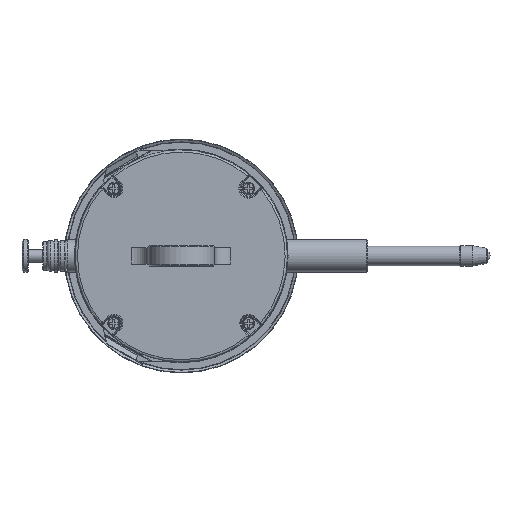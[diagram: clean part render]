
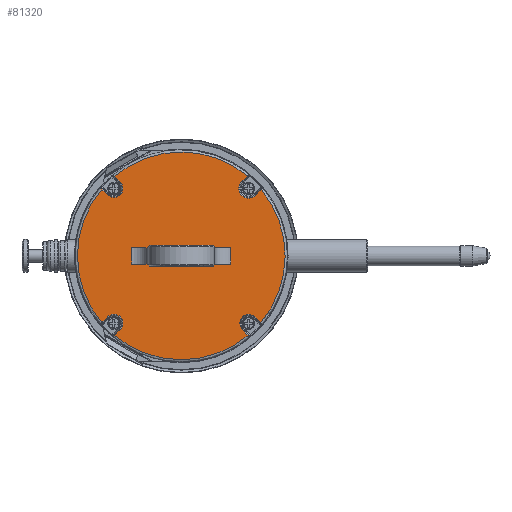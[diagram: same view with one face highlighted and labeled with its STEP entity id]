
A CAD part, top view. The second image highlights one B-rep face of the part: STEP entity #81320.
In plain terms, the highlighted planar face has unit normal (0, 0, 1).
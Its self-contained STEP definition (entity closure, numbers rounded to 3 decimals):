
#39500=CARTESIAN_POINT('',(2.5,0.,2.1));
#39510=DIRECTION('',(0.,-1.,0.));
#39520=VECTOR('',#39510,1.);
#39530=LINE('',#39500,#39520);
#39540=CARTESIAN_POINT('',(2.5,7.8,2.1));
#39550=VERTEX_POINT('',#39540);
#39560=CARTESIAN_POINT('',(2.5,-7.8,2.1));
#39570=VERTEX_POINT('',#39560);
#39580=EDGE_CURVE('',#39550,#39570,#39530,.T.);
#51330=CARTESIAN_POINT('',(-19.359,16.288,2.1));
#51340=VERTEX_POINT('',#51330);
#52190=CARTESIAN_POINT('',(2.,-8.1,2.1));
#52200=VERTEX_POINT('',#52190);
#52230=CARTESIAN_POINT('',(2.,0.,2.1));
#52240=DIRECTION('',(0.,-1.,0.));
#52250=VECTOR('',#52240,1.);
#52260=LINE('',#52230,#52250);
#52270=CARTESIAN_POINT('',(2.,-12.1,2.1));
#52280=VERTEX_POINT('',#52270);
#52290=EDGE_CURVE('',#52200,#52280,#52260,.T.);
#53010=CARTESIAN_POINT('',(14.728,-18.082,2.1));
#53020=VERTEX_POINT('',#53010);
#53210=CARTESIAN_POINT('',(16.134,-19.488,2.1));
#53220=VERTEX_POINT('',#53210);
#53250=CARTESIAN_POINT('',(0.,-3.354,2.1));
#53260=DIRECTION('',(-0.707,0.707,0.));
#53270=VECTOR('',#53260,1.);
#53280=LINE('',#53250,#53270);
#53290=EDGE_CURVE('',#53220,#53020,#53280,.T.);
#54500=CARTESIAN_POINT('',(-16.288,19.359,2.1));
#54510=VERTEX_POINT('',#54500);
#63180=CARTESIAN_POINT('',(14.869,17.94,2.1));
#63190=VERTEX_POINT('',#63180);
#63280=CARTESIAN_POINT('',(17.94,14.869,2.1));
#63290=VERTEX_POINT('',#63280);
#63320=CARTESIAN_POINT('',(16.405,16.405,2.1));
#63330=DIRECTION('',(0.,0.,1.));
#63340=DIRECTION('',(-1.,0.,0.));
#63350=AXIS2_PLACEMENT_3D('',#63320,#63330,#63340);
#63360=CIRCLE('',#63350,2.172);
#63370=EDGE_CURVE('',#63190,#63290,#63360,.T.);
#73990=CARTESIAN_POINT('',(-19.359,-16.288,2.1));
#74000=VERTEX_POINT('',#73990);
#74340=CARTESIAN_POINT('',(0.,3.071,2.1));
#74350=DIRECTION('',(0.707,0.707,0.));
#74360=VECTOR('',#74350,1.);
#74370=LINE('',#74340,#74360);
#74380=CARTESIAN_POINT('',(-17.94,-14.869,2.1));
#74390=VERTEX_POINT('',#74380);
#74400=EDGE_CURVE('',#74000,#74390,#74370,.T.);
#75580=CARTESIAN_POINT('',(19.359,16.288,2.1));
#75590=VERTEX_POINT('',#75580);
#76060=CARTESIAN_POINT('',(0.,3.071,2.1));
#76070=DIRECTION('',(0.707,0.707,0.));
#76080=VECTOR('',#76070,1.);
#76090=LINE('',#76060,#76080);
#76100=CARTESIAN_POINT('',(16.288,19.359,2.1));
#76110=VERTEX_POINT('',#76100);
#76120=EDGE_CURVE('',#63190,#76110,#76090,.T.);
#76410=CARTESIAN_POINT('',(-16.288,-19.359,2.1));
#76420=VERTEX_POINT('',#76410);
#76450=CARTESIAN_POINT('',(0.,0.,2.1));
#76460=DIRECTION('',(0.,0.,-1.));
#76470=DIRECTION('',(-1.,0.,0.));
#76480=AXIS2_PLACEMENT_3D('',#76450,#76460,#76470);
#76490=CIRCLE('',#76480,25.3);
#76500=EDGE_CURVE('',#53220,#76420,#76490,.T.);
#79340=CARTESIAN_POINT('',(0.,0.,2.1));
#79350=DIRECTION('',(0.,0.,-1.));
#79360=DIRECTION('',(1.,0.,0.));
#79370=AXIS2_PLACEMENT_3D('',#79340,#79350,#79360);
#79380=PLANE('',#79370);
#79390=CARTESIAN_POINT('',(10.3,0.,2.1));
#79400=DIRECTION('',(-0.707,0.707,0.));
#79410=VECTOR('',#79400,1.);
#79420=LINE('',#79390,#79410);
#79430=CARTESIAN_POINT('',(2.2,8.1,2.1));
#79440=VERTEX_POINT('',#79430);
#79450=EDGE_CURVE('',#39550,#79440,#79420,.T.);
#79460=ORIENTED_EDGE('',*,*,#79450,.F.);
#79470=CARTESIAN_POINT('',(0.,8.1,2.1));
#79480=DIRECTION('',(-1.,0.,0.));
#79490=VECTOR('',#79480,1.);
#79500=LINE('',#79470,#79490);
#79510=CARTESIAN_POINT('',(2.,8.1,2.1));
#79520=VERTEX_POINT('',#79510);
#79530=EDGE_CURVE('',#79440,#79520,#79500,.T.);
#79540=ORIENTED_EDGE('',*,*,#79530,.F.);
#79550=CARTESIAN_POINT('',(2.,0.,2.1));
#79560=DIRECTION('',(0.,-1.,0.));
#79570=VECTOR('',#79560,1.);
#79580=LINE('',#79550,#79570);
#79590=CARTESIAN_POINT('',(2.,12.1,2.1));
#79600=VERTEX_POINT('',#79590);
#79610=EDGE_CURVE('',#79600,#79520,#79580,.T.);
#79620=ORIENTED_EDGE('',*,*,#79610,.T.);
#79630=CARTESIAN_POINT('',(-2.,12.1,2.1));
#79640=DIRECTION('',(1.,0.,0.));
#79650=VECTOR('',#79640,1.);
#79660=LINE('',#79630,#79650);
#79670=CARTESIAN_POINT('',(-2.,12.1,2.1));
#79680=VERTEX_POINT('',#79670);
#79690=EDGE_CURVE('',#79680,#79600,#79660,.T.);
#79700=ORIENTED_EDGE('',*,*,#79690,.T.);
#79710=CARTESIAN_POINT('',(-2.,0.,2.1));
#79720=DIRECTION('',(0.,1.,0.));
#79730=VECTOR('',#79720,1.);
#79740=LINE('',#79710,#79730);
#79750=CARTESIAN_POINT('',(-2.,8.1,2.1));
#79760=VERTEX_POINT('',#79750);
#79770=EDGE_CURVE('',#79760,#79680,#79740,.T.);
#79780=ORIENTED_EDGE('',*,*,#79770,.T.);
#79790=CARTESIAN_POINT('',(-2.2,8.1,2.1));
#79800=VERTEX_POINT('',#79790);
#79810=EDGE_CURVE('',#79760,#79800,#79500,.T.);
#79820=ORIENTED_EDGE('',*,*,#79810,.F.);
#79830=CARTESIAN_POINT('',(-10.3,0.,2.1));
#79840=DIRECTION('',(0.707,0.707,0.));
#79850=VECTOR('',#79840,1.);
#79860=LINE('',#79830,#79850);
#79870=CARTESIAN_POINT('',(-2.5,7.8,2.1));
#79880=VERTEX_POINT('',#79870);
#79890=EDGE_CURVE('',#79880,#79800,#79860,.T.);
#79900=ORIENTED_EDGE('',*,*,#79890,.T.);
#79910=CARTESIAN_POINT('',(-2.5,0.,2.1));
#79920=DIRECTION('',(0.,1.,0.));
#79930=VECTOR('',#79920,1.);
#79940=LINE('',#79910,#79930);
#79950=CARTESIAN_POINT('',(-2.5,-7.8,2.1));
#79960=VERTEX_POINT('',#79950);
#79970=EDGE_CURVE('',#79960,#79880,#79940,.T.);
#79980=ORIENTED_EDGE('',*,*,#79970,.T.);
#79990=CARTESIAN_POINT('',(-10.3,0.,2.1));
#80000=DIRECTION('',(-0.707,0.707,0.));
#80010=VECTOR('',#80000,1.);
#80020=LINE('',#79990,#80010);
#80030=CARTESIAN_POINT('',(-2.2,-8.1,2.1));
#80040=VERTEX_POINT('',#80030);
#80050=EDGE_CURVE('',#80040,#79960,#80020,.T.);
#80060=ORIENTED_EDGE('',*,*,#80050,.T.);
#80070=CARTESIAN_POINT('',(0.,-8.1,2.1));
#80080=DIRECTION('',(1.,0.,0.));
#80090=VECTOR('',#80080,1.);
#80100=LINE('',#80070,#80090);
#80110=CARTESIAN_POINT('',(-2.,-8.1,2.1));
#80120=VERTEX_POINT('',#80110);
#80130=EDGE_CURVE('',#80040,#80120,#80100,.T.);
#80140=ORIENTED_EDGE('',*,*,#80130,.F.);
#80150=CARTESIAN_POINT('',(-2.,0.,2.1));
#80160=DIRECTION('',(0.,1.,0.));
#80170=VECTOR('',#80160,1.);
#80180=LINE('',#80150,#80170);
#80190=CARTESIAN_POINT('',(-2.,-12.1,2.1));
#80200=VERTEX_POINT('',#80190);
#80210=EDGE_CURVE('',#80200,#80120,#80180,.T.);
#80220=ORIENTED_EDGE('',*,*,#80210,.T.);
#80230=CARTESIAN_POINT('',(-2.,-12.1,2.1));
#80240=DIRECTION('',(1.,0.,0.));
#80250=VECTOR('',#80240,1.);
#80260=LINE('',#80230,#80250);
#80270=EDGE_CURVE('',#80200,#52280,#80260,.T.);
#80280=ORIENTED_EDGE('',*,*,#80270,.F.);
#80290=ORIENTED_EDGE('',*,*,#52290,.T.);
#80300=CARTESIAN_POINT('',(2.2,-8.1,2.1));
#80310=VERTEX_POINT('',#80300);
#80320=EDGE_CURVE('',#52200,#80310,#80100,.T.);
#80330=ORIENTED_EDGE('',*,*,#80320,.F.);
#80340=CARTESIAN_POINT('',(10.3,0.,2.1));
#80350=DIRECTION('',(0.707,0.707,0.));
#80360=VECTOR('',#80350,1.);
#80370=LINE('',#80340,#80360);
#80380=EDGE_CURVE('',#80310,#39570,#80370,.T.);
#80390=ORIENTED_EDGE('',*,*,#80380,.F.);
#80400=ORIENTED_EDGE('',*,*,#39580,.T.);
#80410=EDGE_LOOP('',(#80400,#80390,#80330,#80290,#80280,#80220,#80140,
#80060,#79980,#79900,#79820,#79780,#79700,#79620,#79540,#79460));
#80420=FACE_BOUND('',#80410,.T.);
#80430=ORIENTED_EDGE('',*,*,#76500,.F.);
#80440=CARTESIAN_POINT('',(0.,-3.071,2.1));
#80450=DIRECTION('',(-0.707,-0.707,0.));
#80460=VECTOR('',#80450,1.);
#80470=LINE('',#80440,#80460);
#80480=CARTESIAN_POINT('',(-14.869,-17.94,2.1));
#80490=VERTEX_POINT('',#80480);
#80500=EDGE_CURVE('',#80490,#76420,#80470,.T.);
#80510=ORIENTED_EDGE('',*,*,#80500,.T.);
#80520=CARTESIAN_POINT('',(-16.405,-16.405,2.1));
#80530=DIRECTION('',(0.,0.,1.));
#80540=DIRECTION('',(-1.,0.,0.));
#80550=AXIS2_PLACEMENT_3D('',#80520,#80530,#80540);
#80560=CIRCLE('',#80550,2.172);
#80570=EDGE_CURVE('',#80490,#74390,#80560,.T.);
#80580=ORIENTED_EDGE('',*,*,#80570,.F.);
#80590=ORIENTED_EDGE('',*,*,#74400,.T.);
#80600=CARTESIAN_POINT('',(0.,0.,2.1));
#80610=DIRECTION('',(0.,0.,-1.));
#80620=DIRECTION('',(-1.,0.,0.));
#80630=AXIS2_PLACEMENT_3D('',#80600,#80610,#80620);
#80640=CIRCLE('',#80630,25.3);
#80650=EDGE_CURVE('',#74000,#51340,#80640,.T.);
#80660=ORIENTED_EDGE('',*,*,#80650,.F.);
#80670=CARTESIAN_POINT('',(0.,-3.071,2.1));
#80680=DIRECTION('',(-0.707,0.707,0.));
#80690=VECTOR('',#80680,1.);
#80700=LINE('',#80670,#80690);
#80710=CARTESIAN_POINT('',(-17.94,14.869,2.1));
#80720=VERTEX_POINT('',#80710);
#80730=EDGE_CURVE('',#80720,#51340,#80700,.T.);
#80740=ORIENTED_EDGE('',*,*,#80730,.T.);
#80750=CARTESIAN_POINT('',(-16.405,16.405,2.1));
#80760=DIRECTION('',(0.,0.,1.));
#80770=DIRECTION('',(-1.,0.,0.));
#80780=AXIS2_PLACEMENT_3D('',#80750,#80760,#80770);
#80790=CIRCLE('',#80780,2.172);
#80800=CARTESIAN_POINT('',(-14.869,17.94,2.1));
#80810=VERTEX_POINT('',#80800);
#80820=EDGE_CURVE('',#80720,#80810,#80790,.T.);
#80830=ORIENTED_EDGE('',*,*,#80820,.F.);
#80840=CARTESIAN_POINT('',(0.,3.071,2.1));
#80850=DIRECTION('',(0.707,-0.707,0.));
#80860=VECTOR('',#80850,1.);
#80870=LINE('',#80840,#80860);
#80880=EDGE_CURVE('',#54510,#80810,#80870,.T.);
#80890=ORIENTED_EDGE('',*,*,#80880,.T.);
#80900=CARTESIAN_POINT('',(0.,0.,2.1));
#80910=DIRECTION('',(0.,0.,-1.));
#80920=DIRECTION('',(-1.,0.,0.));
#80930=AXIS2_PLACEMENT_3D('',#80900,#80910,#80920);
#80940=CIRCLE('',#80930,25.3);
#80950=EDGE_CURVE('',#54510,#76110,#80940,.T.);
#80960=ORIENTED_EDGE('',*,*,#80950,.F.);
#80970=ORIENTED_EDGE('',*,*,#76120,.T.);
#80980=ORIENTED_EDGE('',*,*,#63370,.F.);
#80990=CARTESIAN_POINT('',(0.,-3.071,2.1));
#81000=DIRECTION('',(-0.707,-0.707,0.));
#81010=VECTOR('',#81000,1.);
#81020=LINE('',#80990,#81010);
#81030=EDGE_CURVE('',#75590,#63290,#81020,.T.);
#81040=ORIENTED_EDGE('',*,*,#81030,.T.);
#81050=CARTESIAN_POINT('',(0.,0.,2.1));
#81060=DIRECTION('',(0.,0.,-1.));
#81070=DIRECTION('',(-1.,0.,0.));
#81080=AXIS2_PLACEMENT_3D('',#81050,#81060,#81070);
#81090=CIRCLE('',#81080,25.3);
#81100=CARTESIAN_POINT('',(19.488,-16.134,2.1));
#81110=VERTEX_POINT('',#81100);
#81120=EDGE_CURVE('',#75590,#81110,#81090,.T.);
#81130=ORIENTED_EDGE('',*,*,#81120,.F.);
#81140=CARTESIAN_POINT('',(0.,3.354,2.1));
#81150=DIRECTION('',(0.707,-0.707,0.));
#81160=VECTOR('',#81150,1.);
#81170=LINE('',#81140,#81160);
#81180=CARTESIAN_POINT('',(18.082,-14.728,2.1));
#81190=VERTEX_POINT('',#81180);
#81200=EDGE_CURVE('',#81190,#81110,#81170,.T.);
#81210=ORIENTED_EDGE('',*,*,#81200,.T.);
#81220=CARTESIAN_POINT('',(16.405,-16.405,2.1));
#81230=DIRECTION('',(0.,0.,1.));
#81240=DIRECTION('',(-1.,0.,0.));
#81250=AXIS2_PLACEMENT_3D('',#81220,#81230,#81240);
#81260=CIRCLE('',#81250,2.372);
#81270=EDGE_CURVE('',#81190,#53020,#81260,.T.);
#81280=ORIENTED_EDGE('',*,*,#81270,.F.);
#81290=ORIENTED_EDGE('',*,*,#53290,.T.);
#81300=EDGE_LOOP('',(#81290,#81280,#81210,#81130,#81040,#80980,#80970,
#80960,#80890,#80830,#80740,#80660,#80590,#80580,#80510,#80430));
#81310=FACE_OUTER_BOUND('',#81300,.T.);
#81320=ADVANCED_FACE('',(#80420,#81310),#79380,.F.);
